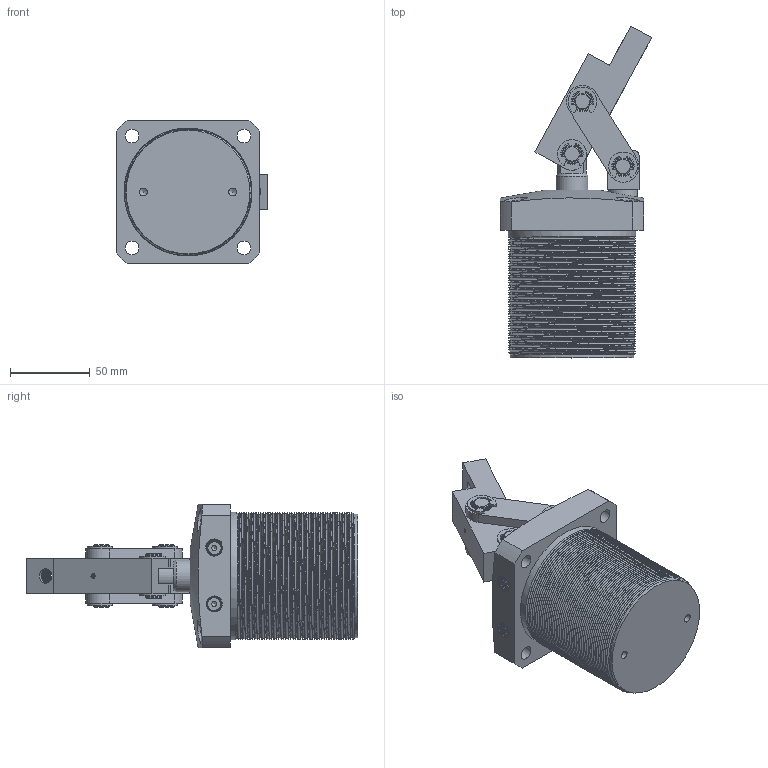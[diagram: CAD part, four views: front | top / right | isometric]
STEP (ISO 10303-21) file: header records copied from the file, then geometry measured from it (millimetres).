
FILE_DESCRIPTION(/* description */ (''),/* implementation_level */ '2;1');
FILE_NAME(/* name */ 'E:\SERWER_ZAPAS\MODELE brakujace\PNEUMATIC\CPLCU(STEP)\cplcu-63_asm\CPLCU-63_OTWARTY.stp',/* time_stamp */ '2019-02-08T14:42:44+01:00',/* author */ ('Admin'),/* organization */ (''),/* preprocessor_version */ 'ST-DEVELOPER v17.2',/* originating_system */ 'Autodesk Inventor 2019',/* authorisation */ '');
FILE_SCHEMA (('AUTOMOTIVE_DESIGN { 1 0 10303 214 3 1 1 }'));
Products named in the file (10): CPLCU-63_OTWARTY; CPLCU-63-07; CPLCU-63-06; CPLCU-63-05; CPLCU-63-01; CPLCU-63-02; CPLCU-63-08; CPLCU-63-03; CPLCU-63-04; CPLCU-50-08
Assembly tree (21 placements, depth 2):
  CPLCU-63_OTWARTY
    CPLCU-63-07
    CPLCU-63-06
    CPLCU-63-05
    CPLCU-63-01
    CPLCU-63-02  x2
    CPLCU-63-08  x6
    CPLCU-63-03
    CPLCU-63-04  x2
    CPLCU-50-08  x6
Bounding box: 94.99 x 207.95 x 90 mm (x, y, z)
Volume: 537349.3 mm3; surface area: 133077.9 mm2
Topology: 21 solids, 21 shells, 578 faces, 1579 edges, 1070 vertices
Faces by surface type: cylinder 282, plane 145, cone 77, bspline 70, torus 3, sphere 1
Full cylindrical faces by diameter (mm): 3 x6, 3.3 x7, 5 x2, 8.5 x4, 9 x19, 10 x18, 10.25 x8, 12 x23, 14 x4, 18 x2, 20 x2, 50 x1, 53 x1, 58.8 x1, 62.5 x3, 63 x1, 77.6 x1, 80 x48
Entity records: 50711 total; most frequent: CARTESIAN_POINT 41115, ORIENTED_EDGE 2106, DIRECTION 1618, EDGE_CURVE 1053, VERTEX_POINT 717, AXIS2_PLACEMENT_3D 627, EDGE_LOOP 441, B_SPLINE_CURVE_WITH_KNOTS 402
